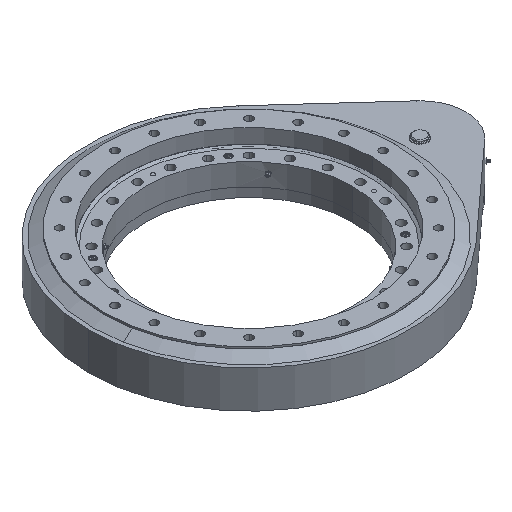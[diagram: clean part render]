
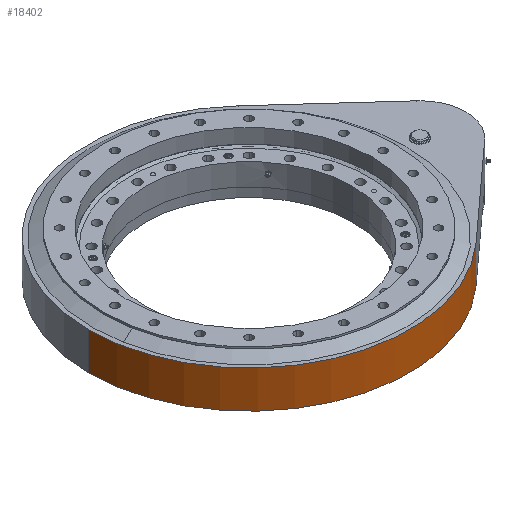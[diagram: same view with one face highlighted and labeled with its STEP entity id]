
A CAD part, isometric view. The second image highlights one B-rep face of the part: STEP entity #18402.
In plain terms, the highlighted cylindrical face has radius 429 mm (diameter 858 mm), a partial arc.
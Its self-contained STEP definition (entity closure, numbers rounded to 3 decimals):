
#294 = DIRECTION ( 'NONE',  ( -1., 0., 0. ) ) ;
#350 = CARTESIAN_POINT ( 'NONE',  ( -132.585, 88.56, 844. ) ) ;
#1388 = EDGE_CURVE ( 'NONE', #22692, #5035, #2014, .T. ) ;
#2014 = LINE ( 'NONE', #6112, #23099 ) ;
#2135 = AXIS2_PLACEMENT_3D ( 'NONE', #23781, #6750, #294 ) ;
#2568 = DIRECTION ( 'NONE',  ( 1., 0., 0. ) ) ;
#3011 = CYLINDRICAL_SURFACE ( 'NONE', #13137, 429. ) ;
#3475 = VECTOR ( 'NONE', #13031, 1000. ) ;
#3921 = DIRECTION ( 'NONE',  ( 0., 0., -1. ) ) ;
#4237 = ORIENTED_EDGE ( 'NONE', *, *, #17186, .F. ) ;
#5035 = VERTEX_POINT ( 'NONE', #8743 ) ;
#6112 = CARTESIAN_POINT ( 'NONE',  ( -561.585, 88.56, 844. ) ) ;
#6391 = EDGE_LOOP ( 'NONE', ( #26478, #12658, #4237, #25793 ) ) ;
#6750 = DIRECTION ( 'NONE',  ( 0., 0., -1. ) ) ;
#6876 = AXIS2_PLACEMENT_3D ( 'NONE', #350, #7221, #2568 ) ;
#7221 = DIRECTION ( 'NONE',  ( 0., 0., 1. ) ) ;
#8743 = CARTESIAN_POINT ( 'NONE',  ( -561.585, 88.56, 744. ) ) ;
#11348 = VERTEX_POINT ( 'NONE', #26168 ) ;
#11672 = FACE_OUTER_BOUND ( 'NONE', #6391, .T. ) ;
#12658 = ORIENTED_EDGE ( 'NONE', *, *, #1388, .T. ) ;
#13031 = DIRECTION ( 'NONE',  ( 0., 0., -1. ) ) ;
#13137 = AXIS2_PLACEMENT_3D ( 'NONE', #22233, #17790, #22360 ) ;
#15241 = LINE ( 'NONE', #17350, #3475 ) ;
#17186 = EDGE_CURVE ( 'NONE', #11348, #5035, #22892, .T. ) ;
#17350 = CARTESIAN_POINT ( 'NONE',  ( 155.767, -229.079, 844. ) ) ;
#17395 = VERTEX_POINT ( 'NONE', #27101 ) ;
#17790 = DIRECTION ( 'NONE',  ( 0., 0., -1. ) ) ;
#18402 = ADVANCED_FACE ( 'NONE', ( #11672 ), #3011, .T. ) ;
#21244 = EDGE_CURVE ( 'NONE', #22692, #17395, #25441, .T. ) ;
#22233 = CARTESIAN_POINT ( 'NONE',  ( -132.585, 88.56, 844. ) ) ;
#22360 = DIRECTION ( 'NONE',  ( -1., 0., 0. ) ) ;
#22692 = VERTEX_POINT ( 'NONE', #22990 ) ;
#22892 = CIRCLE ( 'NONE', #2135, 429. ) ;
#22990 = CARTESIAN_POINT ( 'NONE',  ( -561.585, 88.56, 844. ) ) ;
#23099 = VECTOR ( 'NONE', #3921, 1000. ) ;
#23212 = EDGE_CURVE ( 'NONE', #17395, #11348, #15241, .T. ) ;
#23781 = CARTESIAN_POINT ( 'NONE',  ( -132.585, 88.56, 744. ) ) ;
#25441 = CIRCLE ( 'NONE', #6876, 429. ) ;
#25793 = ORIENTED_EDGE ( 'NONE', *, *, #23212, .F. ) ;
#26168 = CARTESIAN_POINT ( 'NONE',  ( 155.767, -229.079, 744. ) ) ;
#26478 = ORIENTED_EDGE ( 'NONE', *, *, #21244, .F. ) ;
#27101 = CARTESIAN_POINT ( 'NONE',  ( 155.767, -229.079, 844. ) ) ;
